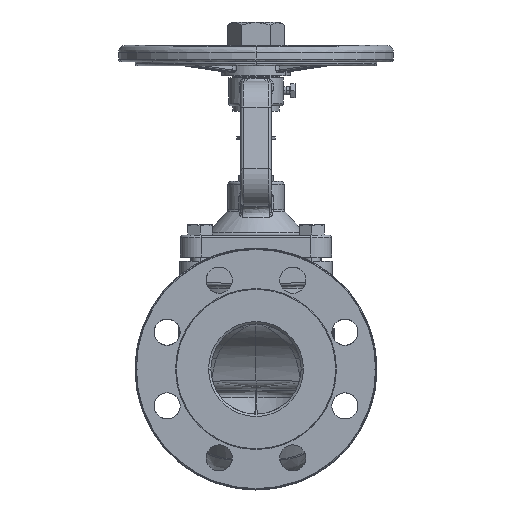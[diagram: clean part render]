
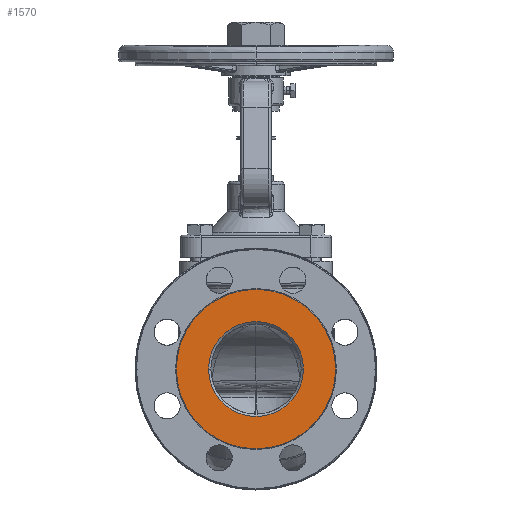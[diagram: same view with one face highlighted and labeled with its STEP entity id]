
A CAD part, left-side view. The second image highlights one B-rep face of the part: STEP entity #1570.
In plain terms, the highlighted planar face has unit normal (-1, 0, 0).
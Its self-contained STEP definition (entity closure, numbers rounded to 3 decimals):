
#1570=ADVANCED_FACE('',(#13504,#13505),#13503,.T.);
#13503=PLANE('',#36827);
#13504=FACE_OUTER_BOUND('',#36828,.T.);
#13505=FACE_BOUND('',#36829,.T.);
#36824=CARTESIAN_POINT('',(-146.,-110.459,-126.));
#36825=DIRECTION('',(-1.,0.,0.));
#36826=DIRECTION('',(0.,0.,1.));
#36827=AXIS2_PLACEMENT_3D('',#36824,#36825,#36826);
#36828=EDGE_LOOP('',(#72880,#72881));
#36829=EDGE_LOOP('',(#72882,#72883));
#72880=ORIENTED_EDGE('',*,*,#80311,.T.);
#72881=ORIENTED_EDGE('',*,*,#80312,.T.);
#72882=ORIENTED_EDGE('',*,*,#80313,.F.);
#72883=ORIENTED_EDGE('',*,*,#80314,.F.);
#80311=EDGE_CURVE('',#101379,#101380,#101381,.T.);
#80312=EDGE_CURVE('',#101380,#101379,#101387,.T.);
#80313=EDGE_CURVE('',#101393,#101394,#101395,.T.);
#80314=EDGE_CURVE('',#101394,#101393,#101401,.T.);
#101379=VERTEX_POINT('',#132304);
#101380=VERTEX_POINT('',#132305);
#101381=CIRCLE('',#132309,58.);
#101387=CIRCLE('',#132313,58.);
#101393=VERTEX_POINT('',#132314);
#101394=VERTEX_POINT('',#132315);
#101395=CIRCLE('',#132319,34.5);
#101401=CIRCLE('',#132323,34.5);
#132304=CARTESIAN_POINT('',(-146.,0.,58.));
#132305=CARTESIAN_POINT('',(-146.,0.,-58.));
#132306=CARTESIAN_POINT('',(-146.,0.,0.));
#132307=DIRECTION('',(-1.,0.,0.));
#132308=DIRECTION('',(0.,0.,1.));
#132309=AXIS2_PLACEMENT_3D('',#132306,#132307,#132308);
#132310=CARTESIAN_POINT('',(-146.,0.,0.));
#132311=DIRECTION('',(-1.,0.,0.));
#132312=DIRECTION('',(0.,0.,1.));
#132313=AXIS2_PLACEMENT_3D('',#132310,#132311,#132312);
#132314=CARTESIAN_POINT('',(-146.,0.,-34.5));
#132315=CARTESIAN_POINT('',(-146.,0.,34.5));
#132316=CARTESIAN_POINT('',(-146.,0.,0.));
#132317=DIRECTION('',(-1.,0.,0.));
#132318=DIRECTION('',(0.,0.,1.));
#132319=AXIS2_PLACEMENT_3D('',#132316,#132317,#132318);
#132320=CARTESIAN_POINT('',(-146.,0.,0.));
#132321=DIRECTION('',(-1.,0.,0.));
#132322=DIRECTION('',(0.,0.,1.));
#132323=AXIS2_PLACEMENT_3D('',#132320,#132321,#132322);
